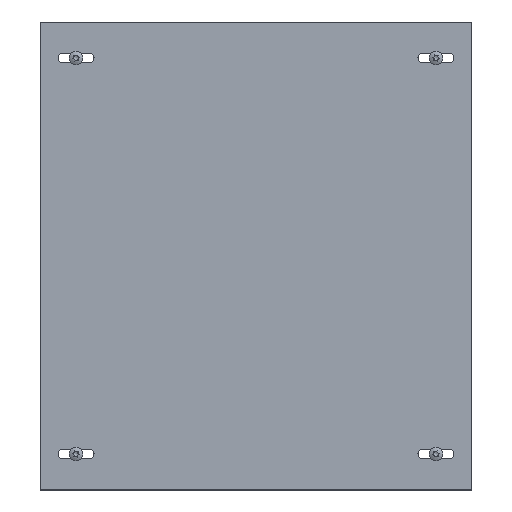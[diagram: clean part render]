
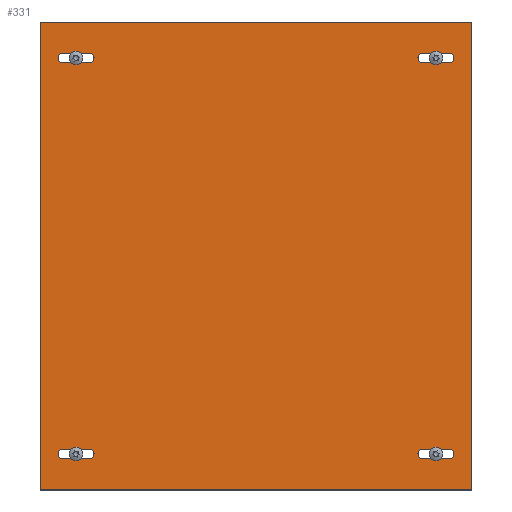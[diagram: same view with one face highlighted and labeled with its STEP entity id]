
A CAD part, top view. The second image highlights one B-rep face of the part: STEP entity #331.
In plain terms, the highlighted planar face has unit normal (0, 0, 1).
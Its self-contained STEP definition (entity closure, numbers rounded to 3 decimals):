
#55 = EDGE_CURVE('',#56,#58,#60,.T.);
#56 = VERTEX_POINT('',#57);
#57 = CARTESIAN_POINT('',(-150.,162.5,0.));
#58 = VERTEX_POINT('',#59);
#59 = CARTESIAN_POINT('',(-150.,-162.5,0.));
#60 = LINE('',#61,#62);
#61 = CARTESIAN_POINT('',(-150.,-162.5,0.));
#62 = VECTOR('',#63,1.);
#63 = DIRECTION('',(-0.,-1.,-0.));
#95 = EDGE_CURVE('',#96,#56,#98,.T.);
#96 = VERTEX_POINT('',#97);
#97 = CARTESIAN_POINT('',(150.,162.5,0.));
#98 = LINE('',#99,#100);
#99 = CARTESIAN_POINT('',(150.,162.5,0.));
#100 = VECTOR('',#101,1.);
#101 = DIRECTION('',(-1.,0.,0.));
#126 = EDGE_CURVE('',#127,#96,#129,.T.);
#127 = VERTEX_POINT('',#128);
#128 = CARTESIAN_POINT('',(150.,-162.5,0.));
#129 = LINE('',#130,#131);
#130 = CARTESIAN_POINT('',(150.,-162.5,0.));
#131 = VECTOR('',#132,1.);
#132 = DIRECTION('',(0.,1.,0.));
#157 = EDGE_CURVE('',#58,#127,#158,.T.);
#158 = LINE('',#159,#160);
#159 = CARTESIAN_POINT('',(150.,-162.5,0.));
#160 = VECTOR('',#161,1.);
#161 = DIRECTION('',(1.,0.,-0.));
#331 = ADVANCED_FACE('',(#332,#368,#404,#440,#476),#482,.T.);
#332 = FACE_BOUND('',#333,.T.);
#333 = EDGE_LOOP('',(#334,#345,#353,#362));
#334 = ORIENTED_EDGE('',*,*,#335,.F.);
#335 = EDGE_CURVE('',#336,#338,#340,.T.);
#336 = VERTEX_POINT('',#337);
#337 = CARTESIAN_POINT('',(-115.75,-140.75,0.));
#338 = VERTEX_POINT('',#339);
#339 = CARTESIAN_POINT('',(-115.75,-134.25,0.));
#340 = CIRCLE('',#341,3.25);
#341 = AXIS2_PLACEMENT_3D('',#342,#343,#344);
#342 = CARTESIAN_POINT('',(-115.75,-137.5,0.));
#343 = DIRECTION('',(0.,0.,1.));
#344 = DIRECTION('',(1.,0.,-0.));
#345 = ORIENTED_EDGE('',*,*,#346,.F.);
#346 = EDGE_CURVE('',#347,#336,#349,.T.);
#347 = VERTEX_POINT('',#348);
#348 = CARTESIAN_POINT('',(-134.25,-140.75,0.));
#349 = LINE('',#350,#351);
#350 = CARTESIAN_POINT('',(-115.75,-140.75,0.));
#351 = VECTOR('',#352,1.);
#352 = DIRECTION('',(1.,-0.,-0.));
#353 = ORIENTED_EDGE('',*,*,#354,.F.);
#354 = EDGE_CURVE('',#355,#347,#357,.T.);
#355 = VERTEX_POINT('',#356);
#356 = CARTESIAN_POINT('',(-134.25,-134.25,0.));
#357 = CIRCLE('',#358,3.25);
#358 = AXIS2_PLACEMENT_3D('',#359,#360,#361);
#359 = CARTESIAN_POINT('',(-134.25,-137.5,0.));
#360 = DIRECTION('',(0.,0.,1.));
#361 = DIRECTION('',(1.,0.,-0.));
#362 = ORIENTED_EDGE('',*,*,#363,.F.);
#363 = EDGE_CURVE('',#338,#355,#364,.T.);
#364 = LINE('',#365,#366);
#365 = CARTESIAN_POINT('',(-115.75,-134.25,0.));
#366 = VECTOR('',#367,1.);
#367 = DIRECTION('',(-1.,0.,0.));
#368 = FACE_BOUND('',#369,.T.);
#369 = EDGE_LOOP('',(#370,#381,#389,#398));
#370 = ORIENTED_EDGE('',*,*,#371,.F.);
#371 = EDGE_CURVE('',#372,#374,#376,.T.);
#372 = VERTEX_POINT('',#373);
#373 = CARTESIAN_POINT('',(-115.75,134.25,0.));
#374 = VERTEX_POINT('',#375);
#375 = CARTESIAN_POINT('',(-115.75,140.75,0.));
#376 = CIRCLE('',#377,3.25);
#377 = AXIS2_PLACEMENT_3D('',#378,#379,#380);
#378 = CARTESIAN_POINT('',(-115.75,137.5,0.));
#379 = DIRECTION('',(0.,0.,1.));
#380 = DIRECTION('',(-1.,0.,0.));
#381 = ORIENTED_EDGE('',*,*,#382,.F.);
#382 = EDGE_CURVE('',#383,#372,#385,.T.);
#383 = VERTEX_POINT('',#384);
#384 = CARTESIAN_POINT('',(-134.25,134.25,0.));
#385 = LINE('',#386,#387);
#386 = CARTESIAN_POINT('',(-115.75,134.25,0.));
#387 = VECTOR('',#388,1.);
#388 = DIRECTION('',(1.,-0.,-0.));
#389 = ORIENTED_EDGE('',*,*,#390,.F.);
#390 = EDGE_CURVE('',#391,#383,#393,.T.);
#391 = VERTEX_POINT('',#392);
#392 = CARTESIAN_POINT('',(-134.25,140.75,0.));
#393 = CIRCLE('',#394,3.25);
#394 = AXIS2_PLACEMENT_3D('',#395,#396,#397);
#395 = CARTESIAN_POINT('',(-134.25,137.5,0.));
#396 = DIRECTION('',(0.,0.,1.));
#397 = DIRECTION('',(-1.,0.,0.));
#398 = ORIENTED_EDGE('',*,*,#399,.F.);
#399 = EDGE_CURVE('',#374,#391,#400,.T.);
#400 = LINE('',#401,#402);
#401 = CARTESIAN_POINT('',(-115.75,140.75,0.));
#402 = VECTOR('',#403,1.);
#403 = DIRECTION('',(-1.,0.,0.));
#404 = FACE_BOUND('',#405,.T.);
#405 = EDGE_LOOP('',(#406,#417,#425,#434));
#406 = ORIENTED_EDGE('',*,*,#407,.F.);
#407 = EDGE_CURVE('',#408,#410,#412,.T.);
#408 = VERTEX_POINT('',#409);
#409 = CARTESIAN_POINT('',(115.75,140.75,0.));
#410 = VERTEX_POINT('',#411);
#411 = CARTESIAN_POINT('',(115.75,134.25,0.));
#412 = CIRCLE('',#413,3.25);
#413 = AXIS2_PLACEMENT_3D('',#414,#415,#416);
#414 = CARTESIAN_POINT('',(115.75,137.5,0.));
#415 = DIRECTION('',(0.,0.,1.));
#416 = DIRECTION('',(1.,0.,-0.));
#417 = ORIENTED_EDGE('',*,*,#418,.F.);
#418 = EDGE_CURVE('',#419,#408,#421,.T.);
#419 = VERTEX_POINT('',#420);
#420 = CARTESIAN_POINT('',(134.25,140.75,0.));
#421 = LINE('',#422,#423);
#422 = CARTESIAN_POINT('',(115.75,140.75,0.));
#423 = VECTOR('',#424,1.);
#424 = DIRECTION('',(-1.,-0.,-0.));
#425 = ORIENTED_EDGE('',*,*,#426,.F.);
#426 = EDGE_CURVE('',#427,#419,#429,.T.);
#427 = VERTEX_POINT('',#428);
#428 = CARTESIAN_POINT('',(134.25,134.25,0.));
#429 = CIRCLE('',#430,3.25);
#430 = AXIS2_PLACEMENT_3D('',#431,#432,#433);
#431 = CARTESIAN_POINT('',(134.25,137.5,0.));
#432 = DIRECTION('',(0.,0.,1.));
#433 = DIRECTION('',(1.,0.,-0.));
#434 = ORIENTED_EDGE('',*,*,#435,.F.);
#435 = EDGE_CURVE('',#410,#427,#436,.T.);
#436 = LINE('',#437,#438);
#437 = CARTESIAN_POINT('',(115.75,134.25,0.));
#438 = VECTOR('',#439,1.);
#439 = DIRECTION('',(1.,0.,0.));
#440 = FACE_BOUND('',#441,.T.);
#441 = EDGE_LOOP('',(#442,#453,#461,#470));
#442 = ORIENTED_EDGE('',*,*,#443,.F.);
#443 = EDGE_CURVE('',#444,#446,#448,.T.);
#444 = VERTEX_POINT('',#445);
#445 = CARTESIAN_POINT('',(115.75,-134.25,0.));
#446 = VERTEX_POINT('',#447);
#447 = CARTESIAN_POINT('',(115.75,-140.75,0.));
#448 = CIRCLE('',#449,3.25);
#449 = AXIS2_PLACEMENT_3D('',#450,#451,#452);
#450 = CARTESIAN_POINT('',(115.75,-137.5,0.));
#451 = DIRECTION('',(0.,0.,1.));
#452 = DIRECTION('',(-1.,0.,0.));
#453 = ORIENTED_EDGE('',*,*,#454,.F.);
#454 = EDGE_CURVE('',#455,#444,#457,.T.);
#455 = VERTEX_POINT('',#456);
#456 = CARTESIAN_POINT('',(134.25,-134.25,0.));
#457 = LINE('',#458,#459);
#458 = CARTESIAN_POINT('',(115.75,-134.25,0.));
#459 = VECTOR('',#460,1.);
#460 = DIRECTION('',(-1.,-0.,-0.));
#461 = ORIENTED_EDGE('',*,*,#462,.F.);
#462 = EDGE_CURVE('',#463,#455,#465,.T.);
#463 = VERTEX_POINT('',#464);
#464 = CARTESIAN_POINT('',(134.25,-140.75,0.));
#465 = CIRCLE('',#466,3.25);
#466 = AXIS2_PLACEMENT_3D('',#467,#468,#469);
#467 = CARTESIAN_POINT('',(134.25,-137.5,0.));
#468 = DIRECTION('',(0.,0.,1.));
#469 = DIRECTION('',(-1.,0.,0.));
#470 = ORIENTED_EDGE('',*,*,#471,.F.);
#471 = EDGE_CURVE('',#446,#463,#472,.T.);
#472 = LINE('',#473,#474);
#473 = CARTESIAN_POINT('',(115.75,-140.75,0.));
#474 = VECTOR('',#475,1.);
#475 = DIRECTION('',(1.,0.,0.));
#476 = FACE_BOUND('',#477,.T.);
#477 = EDGE_LOOP('',(#478,#479,#480,#481));
#478 = ORIENTED_EDGE('',*,*,#55,.T.);
#479 = ORIENTED_EDGE('',*,*,#157,.T.);
#480 = ORIENTED_EDGE('',*,*,#126,.T.);
#481 = ORIENTED_EDGE('',*,*,#95,.T.);
#482 = PLANE('',#483);
#483 = AXIS2_PLACEMENT_3D('',#484,#485,#486);
#484 = CARTESIAN_POINT('',(0.,0.,0.));
#485 = DIRECTION('',(0.,-0.,1.));
#486 = DIRECTION('',(1.,0.,0.));
